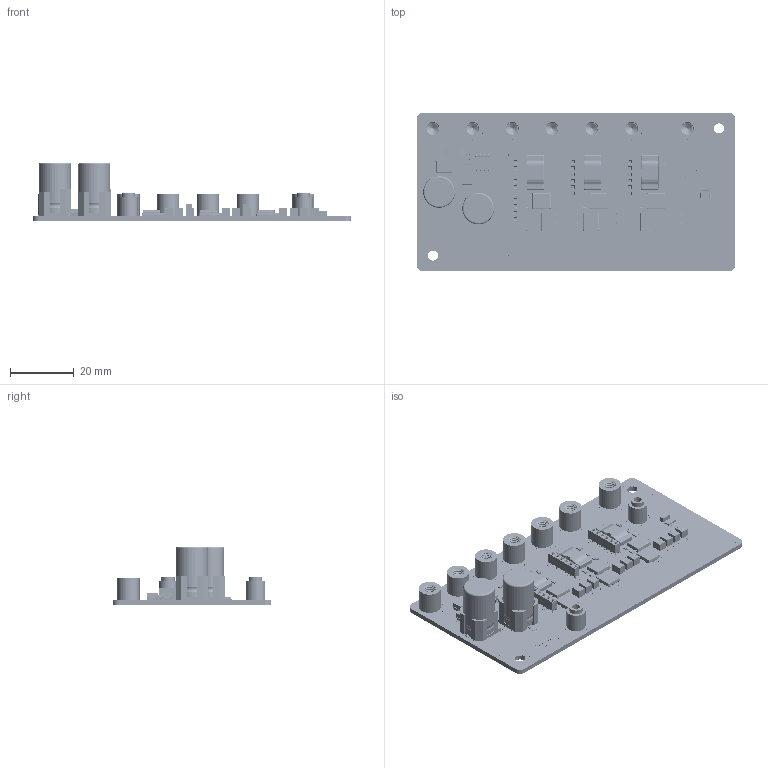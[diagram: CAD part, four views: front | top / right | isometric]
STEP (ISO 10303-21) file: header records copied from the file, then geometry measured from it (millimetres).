
FILE_DESCRIPTION(/* description */ (''),/* implementation_level */ '2;1');
FILE_NAME(/* name */ 'C:/Users/Trinamic/Desktop/Project samples/TMCM-1636/TMCM-1636-A/V11/V11/3D/TMCM-1636-A-24V_V11.step',/* time_stamp */ '2020-03-04T14:22:04+02:00',/* author */ (''),/* organization */ (''),/* preprocessor_version */ 'ST-DEVELOPER v18',/* originating_system */ 'Autodesk Translation Framework v8.12.0.6',/* authorisation */ '');
FILE_SCHEMA (('AUTOMOTIVE_DESIGN { 1 0 10303 214 3 1 1 }'));
Length unit declared in the file: millimetre
Products named in the file (56): TMCM-1636-A-24V_V11; DesignRootModel; Submodel-CA02669C_part_simplified_C1206; UsersTrinamicDesktoproject samplesTMCM-1636TMCM-1636-A-24VV11CADTMCM-
1636-A-24V_V11_PCB3DInput_Sc1206; c1206; Submodel-DIC7260B_part_simplified_SMB; Submodel-noModelForPart_DIC7260B; smb; Submodel-TR16BB27_part_simplified_SO8; UsersTrinamicDesktoproject samplesTMCM-1636TMCM-1636-A-24VV11CADTMCM-
1636-A-24V_V11_PCB3DInput_Sso8; so8; Submodel-REFCA2F7_part_simplified_R1206; UsersTrinamicDesktoproject samplesTMCM-1636TMCM-1636-A-24VV11CADTMCM-
1636-A-24V_V11_PCB3DInput_Sr1206; r1206; Submodel-RE77C32B_part_simplified_R0603; Submodel-REC26868_part_simplified_R0603; Submodel-RE376A23_part_simplified_R0603; UsersTrinamicDesktoproject samplesTMCM-1636TMCM-1636-A-24VV11CADTMCM-
1636-A-24V_V11_PCB3DInput_Sr0603; r0603; Submodel-CO7F967F_part_simplified_NPTH440_740; UsersTrinamicDesktoproject samplesTMCM-1636TMCM-1636-A-24VV11CADTMCM-
1636-A-24V_V11_PCB3DInput_S9774060360R; 9774060360R; Submodel-CO6F3A92_part_simplified_RECEPTACLE-1X6_V_2; UsersTrinamicDesktoproject samplesTMCM-1636TMCM-1636-A-24VV11CADTMCM-
1636-A-24V_V11_PCB3DInput_SMM-106-02-S-S; SMM-106-02-S-S; Submodel-DID988E7_part_simplified_SMB; UsersTrinamicDesktoproject samplesTMCM-1636TMCM-1636-A-24VV11CADTMCM-
1636-A-24V_V11_PCB3DInput_Ssmb; smb (1); Submodel-CA7BA082_part_simplified_C0603; UsersTrinamicDesktoproject samplesTMCM-1636TMCM-1636-A-24VV11CADTMCM-
1636-A-24V_V11_PCB3DInput_Sc0603; c0603; Submodel-CA8F93C6_part_simplified_C1210; UsersTrinamicDesktoproject samplesTMCM-1636TMCM-1636-A-24VV11CADTMCM-
1636-A-24V_V11_PCB3DInput_Sc1210; c1210; uid__1560; Submodel-CODE211B_part_PIN700_SMD; UsersTrinamicDesktoproject samplesTMCM-1636TMCM-1636-A-24VV11CADTMCM-
1636-A-24V_V11_PCB3DImportedPartModelsin700_SMD; Pin700_SMD; Submodel-REF495BC_part_R3921; UsersTrinamicDesktoproject samplesTMCM-1636TMCM-1636-A-24VV11CADTMCM-
1636-A-24V_V11_PCB3DImportedPartModelsR3920 ...
Assembly tree (96 placements, depth 5):
  TMCM-1636-A-24V_V11
    DesignRootModel
      Submodel-CA7BA082_part_simplified_C0603  x4
        UsersTrinamicDesktoproject samplesTMCM-1636TMCM-1636-A-24VV11CADTMCM-
1636-A-24V_V11_PCB3DInput_Sc0603
          c0603
      Submodel-CA02669C_part_simplified_C1206
        UsersTrinamicDesktoproject samplesTMCM-1636TMCM-1636-A-24VV11CADTMCM-
1636-A-24V_V11_PCB3DInput_Sc1206
          c1206
      Submodel-RE376A23_part_simplified_R0603  x7
        UsersTrinamicDesktoproject samplesTMCM-1636TMCM-1636-A-24VV11CADTMCM-
1636-A-24V_V11_PCB3DInput_Sr0603
          r0603
      Submodel-DIC7260B_part_simplified_SMB
        Submodel-noModelForPart_DIC7260B
          smb
      Submodel-CA8F93C6_part_simplified_C1210  x10
        UsersTrinamicDesktoproject samplesTMCM-1636TMCM-1636-A-24VV11CADTMCM-
1636-A-24V_V11_PCB3DInput_Sc1210
          c1210
      Submodel-TR16BB27_part_simplified_SO8
        UsersTrinamicDesktoproject samplesTMCM-1636TMCM-1636-A-24VV11CADTMCM-
1636-A-24V_V11_PCB3DInput_Sso8
          so8
      Submodel-REFCA2F7_part_simplified_R1206
        UsersTrinamicDesktoproject samplesTMCM-1636TMCM-1636-A-24VV11CADTMCM-
1636-A-24V_V11_PCB3DInput_Sr1206
          r1206
      Submodel-RE77C32B_part_simplified_R0603  x6
        UsersTrinamicDesktoproject samplesTMCM-1636TMCM-1636-A-24VV11CADTMCM-
1636-A-24V_V11_PCB3DInput_Sr0603
          r0603
      Submodel-REC26868_part_simplified_R0603
        UsersTrinamicDesktoproject samplesTMCM-1636TMCM-1636-A-24VV11CADTMCM-
1636-A-24V_V11_PCB3DInput_Sr0603
          r0603
      Submodel-CO7F967F_part_simplified_NPTH440_740  x2
        UsersTrinamicDesktoproject samplesTMCM-1636TMCM-1636-A-24VV11CADTMCM-
1636-A-24V_V11_PCB3DInput_S9774060360R
          9774060360R
      Submodel-CO6F3A92_part_simplified_RECEPTACLE-1X6_V_2  x2
        UsersTrinamicDesktoproject samplesTMCM-1636TMCM-1636-A-24VV11CADTMCM-
1636-A-24V_V11_PCB3DInput_SMM-106-02-S-S
          SMM-106-02-S-S
      Submodel-DID988E7_part_simplified_SMB
        UsersTrinamicDesktoproject samplesTMCM-1636TMCM-1636-A-24VV11CADTMCM-
1636-A-24V_V11_PCB3DInput_Ssmb
          smb (1)
      uid__1560
      Submodel-CODE211B_part_PIN700_SMD  x7
        UsersTrinamicDesktoproject samplesTMCM-1636TMCM-1636-A-24VV11CADTMCM-
1636-A-24V_V11_PCB3DImportedPartModelsin700_SMD
          Pin700_SMD
      Submodel-REF495BC_part_R3921  x3
        UsersTrinamicDesktoproject samplesTMCM-1636TMCM-1636-A-24VV11CADTMCM-
1636-A-24V_V11_PCB3DImportedPartModelsR3920
          R3920
      Submodel-TR25AD4F_part_POWER56  x6
        UsersTrinamicDesktoproject samplesTMCM-1636TMCM-1636-A-24VV11CADTMCM-
1636-A-24V_V11_PCB3DImportedPartModelspower56
          power56
      Submodel-RE34FC4B_part_R2512
        UsersTrinamicDesktoproject samplesTMCM-1636TMCM-1636-A-24VV11CADTMCM-
1636-A-24V_V11_PCB3DImportedPartModelsr2512
          r2512
      Submodel-CA3718CC_part_EL100VSMD  x2
        UsersTrinamicDesktoproject samplesTMCM-1636TMCM-1636-A-24VV11CADTMCM-
1636-A-24V_V11_PCB3DImportedPartModelsEL100VSMD
          EL100VSMD
      Submodel-CO309017_part_RECEPTACLE-1X10_V_2
        UsersTrinamicDesktoproject samplesTMCM-1636TMCM-1636-A-24VV11CADTMCM-
1636-A-24V_V11_PCB3DImportedPartModelsMM-110-02-S-S
          SMM-110-02-S-S
    TMCM-1636-A-24V_V11_CopperTop
    TMCM-1636-A-24V_V11_Soldermask
    TMCM-1636-A-24V_V11_Silkscreen
Bounding box: 100 x 50 x 18.41 mm (x, y, z)
Volume: 13608.5 mm3; surface area: 45586.6 mm2
Topology: 536 solids, 536 shells, 18419 faces, 51145 edges, 33861 vertices
Faces by surface type: plane 16728, cylinder 1512, torus 88, bspline 50, cone 21, sphere 20
Full cylindrical faces by diameter (mm): 0.6 x1, 1 x3, 1.2 x4, 1.4 x4, 2.459 x2, 2.8 x3, 3.2 x2, 3.24 x28, 3.6 x2, 4.2 x2, 4.4 x2, 4.8 x2, 6 x2, 6.45 x2, 6.704 x2, 7 x7, 7.5 x2, 8.1 x7, 10 x4
Entity records: 523809 total; most frequent: CARTESIAN_POINT 94887, ORIENTED_EDGE 92170, DIRECTION 81350, EDGE_CURVE 46085, LINE 43848, VECTOR 43848, VERTEX_POINT 30608, AXIS2_PLACEMENT_3D 18751
